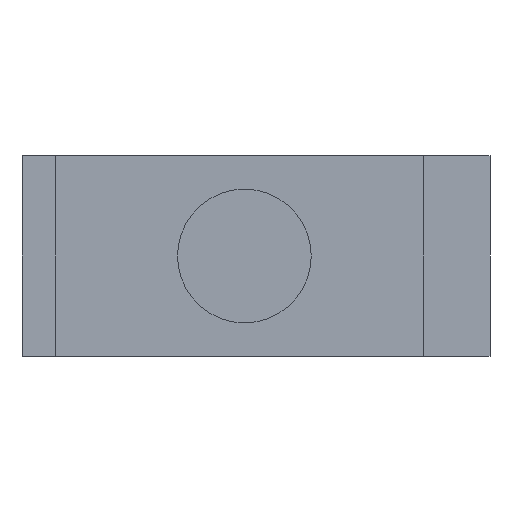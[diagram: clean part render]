
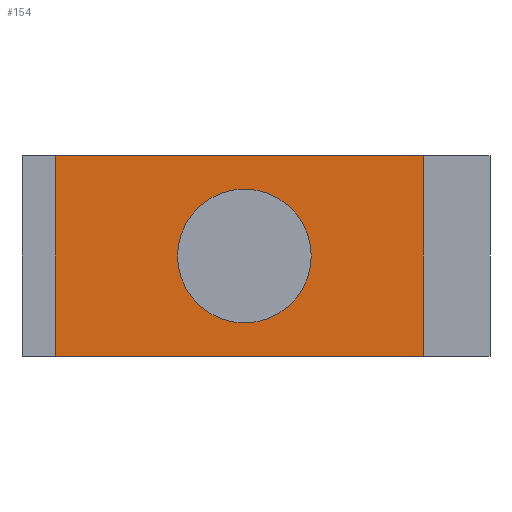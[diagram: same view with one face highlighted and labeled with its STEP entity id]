
A CAD part, front view. The second image highlights one B-rep face of the part: STEP entity #154.
In plain terms, the highlighted planar face has unit normal (0, -1, 0).
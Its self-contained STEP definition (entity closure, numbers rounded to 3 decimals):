
#130 = ORIENTED_EDGE ( 'NONE', *, *, #164, .T. ) ;
#131 = ORIENTED_EDGE ( 'NONE', *, *, #132, .T. ) ;
#132 = EDGE_CURVE ( 'NONE', #147, #133, #560, .T. ) ;
#133 = VERTEX_POINT ( 'NONE', #556 ) ;
#134 = ORIENTED_EDGE ( 'NONE', *, *, #135, .F. ) ;
#135 = EDGE_CURVE ( 'NONE', #136, #133, #555, .T. ) ;
#136 = VERTEX_POINT ( 'NONE', #551 ) ;
#137 = ORIENTED_EDGE ( 'NONE', *, *, #138, .F. ) ;
#138 = EDGE_CURVE ( 'NONE', #150, #136, #550, .T. ) ;
#139 = ORIENTED_EDGE ( 'NONE', *, *, #149, .T. ) ;
#147 = VERTEX_POINT ( 'NONE', #592 ) ;
#149 = EDGE_CURVE ( 'NONE', #150, #147, #591, .T. ) ;
#150 = VERTEX_POINT ( 'NONE', #587 ) ;
#154 = ADVANCED_FACE ( 'NONE', ( #582, #581 ), #580, .F. ) ;
#155 = EDGE_LOOP ( 'NONE', ( #156, #130 ) ) ;
#156 = ORIENTED_EDGE ( 'NONE', *, *, #172, .T. ) ;
#157 = EDGE_LOOP ( 'NONE', ( #131, #134, #137, #139 ) ) ;
#164 = EDGE_CURVE ( 'NONE', #175, #170, #634, .T. ) ;
#170 = VERTEX_POINT ( 'NONE', #617 ) ;
#172 = EDGE_CURVE ( 'NONE', #170, #175, #675, .T. ) ;
#175 = VERTEX_POINT ( 'NONE', #666 ) ;
#547 = DIRECTION ( 'NONE',  ( 1., 0., 0. ) ) ;
#548 = VECTOR ( 'NONE', #547, 1000. ) ;
#549 = CARTESIAN_POINT ( 'NONE',  ( -10., 5., 15. ) ) ;
#550 = LINE ( 'NONE', #549, #548 ) ;
#551 = CARTESIAN_POINT ( 'NONE',  ( -10., 5., 15. ) ) ;
#552 = DIRECTION ( 'NONE',  ( 0., 0., -1. ) ) ;
#553 = VECTOR ( 'NONE', #552, 1000. ) ;
#554 = CARTESIAN_POINT ( 'NONE',  ( -10., 5., 15. ) ) ;
#555 = LINE ( 'NONE', #554, #553 ) ;
#556 = CARTESIAN_POINT ( 'NONE',  ( -10., 5., -15. ) ) ;
#557 = DIRECTION ( 'NONE',  ( 1., 0., 0. ) ) ;
#558 = VECTOR ( 'NONE', #557, 1000. ) ;
#559 = CARTESIAN_POINT ( 'NONE',  ( -10., 5., -15. ) ) ;
#560 = LINE ( 'NONE', #559, #558 ) ;
#577 = DIRECTION ( 'NONE',  ( 0., 1., 0. ) ) ;
#578 = CARTESIAN_POINT ( 'NONE',  ( -10., 5., 15. ) ) ;
#579 = AXIS2_PLACEMENT_3D ( 'NONE', #578, #577, #644 ) ;
#580 = PLANE ( 'NONE',  #579 ) ;
#581 = FACE_OUTER_BOUND ( 'NONE', #157, .T. ) ;
#582 = FACE_BOUND ( 'NONE', #155, .T. ) ;
#587 = CARTESIAN_POINT ( 'NONE',  ( -65., 5., 15. ) ) ;
#588 = DIRECTION ( 'NONE',  ( 0., 0., -1. ) ) ;
#589 = VECTOR ( 'NONE', #588, 1000. ) ;
#590 = CARTESIAN_POINT ( 'NONE',  ( -65., 5., 15. ) ) ;
#591 = LINE ( 'NONE', #590, #589 ) ;
#592 = CARTESIAN_POINT ( 'NONE',  ( -65., 5., -15. ) ) ;
#617 = CARTESIAN_POINT ( 'NONE',  ( -41.739, 5., 0. ) ) ;
#630 = DIRECTION ( 'NONE',  ( -1., 0., 0. ) ) ;
#631 = DIRECTION ( 'NONE',  ( 0., 1., 0. ) ) ;
#632 = CARTESIAN_POINT ( 'NONE',  ( -36.739, 5., 0. ) ) ;
#633 = AXIS2_PLACEMENT_3D ( 'NONE', #632, #631, #630 ) ;
#634 = CIRCLE ( 'NONE', #633, 5. ) ;
#644 = DIRECTION ( 'NONE',  ( -1., 0., 0. ) ) ;
#666 = CARTESIAN_POINT ( 'NONE',  ( -31.739, 5., 0. ) ) ;
#671 = DIRECTION ( 'NONE',  ( -1., 0., 0. ) ) ;
#672 = DIRECTION ( 'NONE',  ( 0., 1., 0. ) ) ;
#673 = CARTESIAN_POINT ( 'NONE',  ( -36.739, 5., 0. ) ) ;
#674 = AXIS2_PLACEMENT_3D ( 'NONE', #673, #672, #671 ) ;
#675 = CIRCLE ( 'NONE', #674, 5. ) ;
